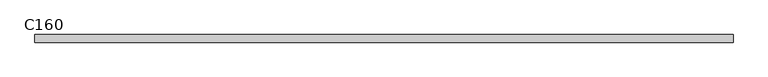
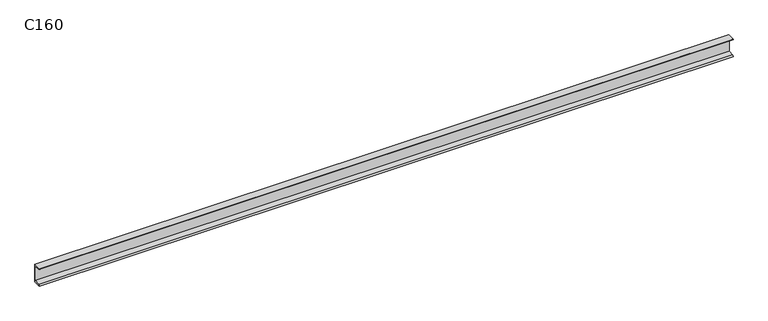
"""IFC4 building model written with IfcOpenShell, lengths in millimetres: beam geometry, RPLN C - Ceowniki normalne : C160."""

import ifcopenshell
import ifcopenshell.guid

model = None  # the IFC model being written
_history = None  # IfcOwnerHistory: only IFC2X3 demands one
_inside = {}  # id of a spatial element -> (the spatial element, [elements in it])
_under = {}  # id of a project, library or spatial element -> (it, [spatial elements below it])
_declared = {}  # id of a project -> (the project, [libraries it declares])
_typed = {}  # id of a type object -> (the type object, [elements of that type])
_made_of = {}  # id of a material, layer set ... -> (it, [elements and type objects made of it])


def new_model(schema):
    """Start an empty IFC model of exactly this schema.

    Asked for "IFC4X3", IfcOpenShell would pick the latest addendum, in which some entities
    have other attributes; the version numbers below select the first issue.
    IFC2X3 requires an IfcOwnerHistory on every rooted entity: one is made here for all.
    """
    global model, _history
    if schema == "IFC4X3":
        model = ifcopenshell.file(schema_version=(4, 3, 0, 0))
    else:
        model = ifcopenshell.file(schema=schema)
    _inside.clear()
    _under.clear()
    _declared.clear()
    _typed.clear()
    _made_of.clear()
    _history = None
    if model.schema == "IFC2X3":
        org = make("IfcOrganization", Name="unknown")
        user = make(
            "IfcPersonAndOrganization",
            ThePerson=make("IfcPerson", FamilyName="unknown"),
            TheOrganization=org,
        )
        app = make(
            "IfcApplication",
            ApplicationDeveloper=org,
            Version="unknown",
            ApplicationFullName="unknown",
            ApplicationIdentifier="unknown",
        )
        _history = make(
            "IfcOwnerHistory",
            OwningUser=user,
            OwningApplication=app,
            ChangeAction="ADDED",
            CreationDate=0,
        )
    return model


def make(cls, **values):
    """One entity of the class cls with the attributes given. An attribute that is None is left unset."""
    return model.create_entity(
        cls, **{name: value for name, value in values.items() if value is not None}
    )


def rooted(cls, **values):
    """An entity with a GlobalId (a new one), such as an element, a storey or a relation."""
    return make(cls, GlobalId=ifcopenshell.guid.new(), OwnerHistory=_history, **values)


def si_unit(unit_type, name, prefix=None):
    """IfcSIUnit, for example si_unit("LENGTHUNIT", "METRE", prefix="MILLI")."""
    return make("IfcSIUnit", UnitType=unit_type, Prefix=prefix, Name=name)


def assignment(units):
    """IfcUnitAssignment: the units of a project."""
    return None if units is None else make("IfcUnitAssignment", Units=units)


def point(xyz):
    """IfcCartesianPoint."""
    return None if xyz is None else make("IfcCartesianPoint", Coordinates=xyz)


def direction(xyz):
    """IfcDirection."""
    return None if xyz is None else make("IfcDirection", DirectionRatios=xyz)


def frame(location, z_axis=None, x_axis=None):
    """IfcAxis2Placement3D, a coordinate frame: its origin and axes. An axis left out is left unset."""
    return make(
        "IfcAxis2Placement3D",
        Location=point(location),
        Axis=direction(z_axis),
        RefDirection=direction(x_axis),
    )


def frame_2d(location, x_axis=None):
    """IfcAxis2Placement2D, a coordinate frame in the plane: its origin and x axis."""
    return make(
        "IfcAxis2Placement2D", Location=point(location), RefDirection=direction(x_axis)
    )


def origin():
    """The frame at (0, 0, 0) with its axes left unset."""
    return frame((0.0, 0.0, 0.0))


def place(relative_to, where):
    """IfcLocalPlacement: puts the frame where relative to a parent placement (None: the world)."""
    return make(
        "IfcLocalPlacement", PlacementRelTo=relative_to, RelativePlacement=where
    )


def context(
    kind, dimensions, precision=None, world=None, true_north=None, identifier=None
):
    """IfcGeometricRepresentationContext, for example the 3D "Model" context."""
    return make(
        "IfcGeometricRepresentationContext",
        ContextIdentifier=identifier,
        ContextType=kind,
        CoordinateSpaceDimension=dimensions,
        Precision=precision,
        WorldCoordinateSystem=world,
        TrueNorth=true_north,
    )


def project(units=None, contexts=None):
    """IfcProject with its units and contexts."""
    return rooted(
        "IfcProject",
        Name="project",
        RepresentationContexts=contexts,
        UnitsInContext=assignment(units),
    )


def spatial(cls, under=None, at=None, **own):
    """A site, building, storey or space (cls), placed at a placement, below another one or the project."""
    s = rooted(cls, ObjectPlacement=at, **own)
    if under is not None:
        _under.setdefault(under.id(), (under, []))[1].append(s)
    return s


def polyline(points):
    """IfcPolyline through the points."""
    return make("IfcPolyline", Points=[point(p) for p in points])


def circle_curve(where, radius):
    """IfcCircle in the frame where."""
    return make("IfcCircle", Position=where, Radius=radius)


def trimmed(basis, trim1, trim2, sense, master):
    """IfcTrimmedCurve: the piece of a basis curve between two trims."""
    return make(
        "IfcTrimmedCurve",
        BasisCurve=basis,
        Trim1=trim1,
        Trim2=trim2,
        SenseAgreement=sense,
        MasterRepresentation=master,
    )


def segment(curve, same_sense, transition):
    """IfcCompositeCurveSegment."""
    return make(
        "IfcCompositeCurveSegment",
        Transition=transition,
        SameSense=same_sense,
        ParentCurve=curve,
    )


def composite_curve(segments, self_intersect=None):
    """IfcCompositeCurve: segments joined end to end."""
    return make("IfcCompositeCurve", Segments=segments, SelfIntersect=self_intersect)


def outline(outer, holes=None, kind="AREA"):
    """IfcArbitraryClosedProfileDef: a profile drawn as a closed curve; with holes, ...WithVoids."""
    if holes is None:
        return make("IfcArbitraryClosedProfileDef", ProfileType=kind, OuterCurve=outer)
    return make(
        "IfcArbitraryProfileDefWithVoids",
        ProfileType=kind,
        OuterCurve=outer,
        InnerCurves=holes,
    )


def extrude(swept, where, along, depth):
    """IfcExtrudedAreaSolid: the profile swept, set in the frame where, extruded along a direction by depth."""
    return make(
        "IfcExtrudedAreaSolid",
        SweptArea=swept,
        Position=where,
        ExtrudedDirection=direction(along),
        Depth=depth,
    )


def shape(context_of_items, identifier, shape_type, items):
    """IfcShapeRepresentation: the items that make up one representation, for example the "Body"."""
    return make(
        "IfcShapeRepresentation",
        ContextOfItems=context_of_items,
        RepresentationIdentifier=identifier,
        RepresentationType=shape_type,
        Items=items,
    )


def source(mapping_origin, context_of_items, identifier, shape_type, items):
    """IfcRepresentationMap: a shape defined once, which mapped items show again and again."""
    return make(
        "IfcRepresentationMap",
        MappingOrigin=mapping_origin,
        MappedRepresentation=shape(context_of_items, identifier, shape_type, items),
    )


def transform(
    local_origin,
    x_axis=None,
    y_axis=None,
    z_axis=None,
    scale=None,
    scale2=None,
    scale3=None,
    uniform=True,
):
    """IfcCartesianTransformationOperator3D, or its non-uniform kind. x_axis, y_axis, z_axis: its Axis1, 2, 3."""
    if uniform:
        return make(
            "IfcCartesianTransformationOperator3D",
            Axis1=direction(x_axis),
            Axis2=direction(y_axis),
            LocalOrigin=point(local_origin),
            Scale=scale,
            Axis3=direction(z_axis),
        )
    return make(
        "IfcCartesianTransformationOperator3DnonUniform",
        Axis1=direction(x_axis),
        Axis2=direction(y_axis),
        LocalOrigin=point(local_origin),
        Scale=scale,
        Axis3=direction(z_axis),
        Scale2=scale2,
        Scale3=scale3,
    )


def mapped(mapping_source, mapping_target):
    """IfcMappedItem: shows the shape of a source again, moved by a transform."""
    return make(
        "IfcMappedItem", MappingSource=mapping_source, MappingTarget=mapping_target
    )


def made_of(thing, what):
    """Note that an element or type object is made of a material, layer set ...; save() writes the relation."""
    if what is not None:
        _made_of.setdefault(what.id(), (what, []))[1].append(thing)
    return thing


def element(
    cls,
    number,
    at=None,
    inside=None,
    cuts=None,
    type_object=None,
    material=None,
    context=None,
    identifier="Body",
    shape_type=None,
    held_by="IfcProductDefinitionShape",
    body=None,
    shapes=None,
    **own,
):
    """One element of the class cls, such as IfcWall. Its Tag is "e" and its number.

    at: its placement. inside: the storey or other place that contains it. cuts: it is an
    opening in that element (IfcRelVoidsElement). A single representation is given by context,
    identifier, shape_type and body (its items); several are given by shapes. held_by: the class
    of the entity that holds the representations. save() writes the other relations.
    """
    e = rooted(cls, Tag="e%d" % number, ObjectPlacement=at, **own)
    if body is not None:
        shapes = [shape(context, identifier, shape_type, body)]
    if shapes is not None:
        e.Representation = make(held_by, Representations=shapes)
    if inside is not None:
        _inside.setdefault(inside.id(), (inside, []))[1].append(e)
    if cuts is not None:
        rooted(
            "IfcRelVoidsElement", RelatingBuildingElement=cuts, RelatedOpeningElement=e
        )
    if type_object is not None:
        _typed.setdefault(type_object.id(), (type_object, []))[1].append(e)
    return made_of(e, material)


def aggregate(whole, parts):
    """IfcRelAggregates: a whole, such as a stair, and the parts it consists of."""
    return rooted("IfcRelAggregates", RelatingObject=whole, RelatedObjects=parts)


def save(model, path):
    """Write the relations noted so far, then the file.

    IfcRelAggregates (storeys below a building ...), IfcRelContainedInSpatialStructure (elements
    in a storey), IfcRelDefinesByType, IfcRelAssociatesMaterial and IfcRelDeclares: one each for
    every whole, place, type object, material and project.
    """
    for whole, parts in _under.values():
        aggregate(whole, parts)
    for where, things in _inside.values():
        rooted(
            "IfcRelContainedInSpatialStructure",
            RelatedElements=things,
            RelatingStructure=where,
        )
    for kind, things in _typed.values():
        rooted("IfcRelDefinesByType", RelatedObjects=things, RelatingType=kind)
    for what, things in _made_of.values():
        rooted("IfcRelAssociatesMaterial", RelatedObjects=things, RelatingMaterial=what)
    for by, libraries in _declared.values():
        rooted("IfcRelDeclares", RelatingContext=by, RelatedDefinitions=libraries)
    model.write(path)


def c160_676f0d43(model_context):
    return source(origin(), model_context, "Body", "SweptSolid", [
        extrude(outline(composite_curve([segment(polyline([(18.4, 80.0), (18.4, -80.0), (-46.6, -80.0)]), True, "CONTINUOUS"), segment(trimmed(circle_curve(frame_2d((-36.1, -80.0)), 10.5), [point((-46.6, -80.0))], [point((-36.1, -69.5))], False, "CARTESIAN"), True, "CONTINUOUS"), segment(polyline([(-36.1, -69.5), (10.9, -62.0559313), (10.9, 62.0559313), (-36.1, 69.5)]), True, "CONTINUOUS"), segment(trimmed(circle_curve(frame_2d((-36.1, 80.0)), 10.5), [point((-36.1, 69.5))], [point((-46.6, 80.0))], False, "CARTESIAN"), True, "CONTINUOUS"), segment(polyline([(-46.6, 80.0), (18.4, 80.0)]), True, "CONTINUOUS")], self_intersect=False)), frame((-2979.7999994, 0.0, 0.0), z_axis=(1.0, 0.0, 0.0), x_axis=(0.0, 1.0, 0.0)), (0.0, 0.0, 1.0), 5972.2999994),
    ])


if __name__ == "__main__":
    model = new_model("IFC4")
    model_context = context("Model", 3, world=origin())
    ifc_project = project(units=[si_unit("LENGTHUNIT", "METRE", prefix="MILLI")], contexts=[model_context])
    site = spatial("IfcSite", under=ifc_project)
    building = spatial("IfcBuilding", under=site)
    placement = place(None, origin())
    c160_shape = c160_676f0d43(model_context)
    element("IfcBeam", 1, ObjectType="RPLN C - Ceowniki normalne : C160", at=placement, inside=building, context=model_context, shape_type="MappedRepresentation", body=[
        mapped(c160_shape, transform((0.0, 0.0, 0.0), x_axis=(1.0, 0.0, 0.0), y_axis=(0.0, 1.0, 0.0), z_axis=(0.0, 0.0, 1.0))),
    ])
    save(model, "model.ifc")
